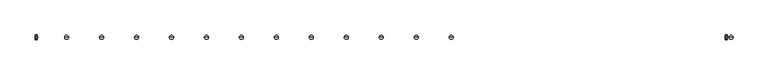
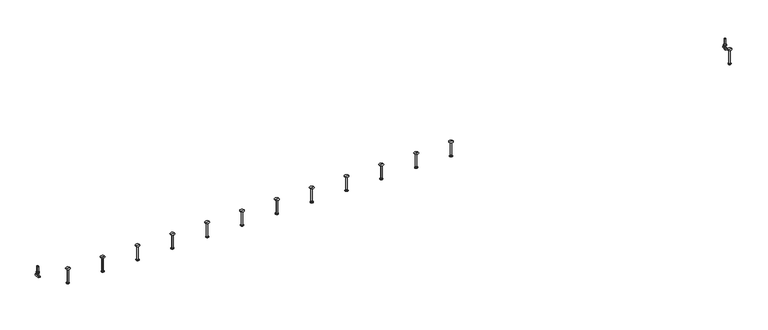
"""IFC4 building model written with IfcOpenShell, lengths in millimetres: fastener geometry, JTA-K JORDAHL® AnchorChannels : JTA-K L=6000 mm."""

from ifc_helpers import new_model, si_unit, point, frame, frame_2d, origin, place, context, project, spatial, polyline, circle_curve, trimmed, segment, composite_curve, outline, extrude, source, transform, mapped, element, save
from ifc_brep_helpers import plane_surface, cylinder_surface, revolved_surface, advanced_brep


def fastener_3a6b7516(model_context):
    return source(origin(), model_context, "Body", "SolidModel", [
        advanced_brep(
        [(3593.0, 0.0, -34.0), (3575.5, 0.0, -34.0), (3610.5, 0.0, -34.0), (3581.5, 0.0, -165.0), (3593.0, 0.0, -165.0), (3604.5, 0.0, -165.0), (3581.5, 0.0, -163.0), (3604.5, 0.0, -163.0), (3587.2, 0.0, -159.7091035), (3598.8, 0.0, -159.7091035), (3587.2, 0.0, -37.0), (3598.8, 0.0, -37.0)],
        [
            (0, 1),
            (1, 2, circle_curve(frame((3593.0, 0.0, -34.0), z_axis=(0.0, 0.0, 1.0), x_axis=(1.0, 0.0, 0.0)), 17.5)),
            (2, 0),
            (2, 1, circle_curve(frame((3593.0, 0.0, -34.0), z_axis=(0.0, 0.0, 1.0), x_axis=(1.0, 0.0, 0.0)), 17.5)),
            (3, 4),
            (4, 5),
            (5, 3, circle_curve(frame((3593.0, 0.0, -165.0), z_axis=(0.0, 0.0, -1.0), x_axis=(1.0, 0.0, 0.0)), 11.5)),
            (3, 5, circle_curve(frame((3593.0, 0.0, -165.0), z_axis=(0.0, 0.0, -1.0), x_axis=(1.0, 0.0, 0.0)), 11.5)),
            (6, 3),
            (5, 7),
            (7, 6, circle_curve(frame((3593.0, 0.0, -163.0), z_axis=(0.0, 0.0, -1.0), x_axis=(1.0, 0.0, 0.0)), 11.5)),
            (6, 7, circle_curve(frame((3593.0, 0.0, -163.0), z_axis=(0.0, 0.0, -1.0), x_axis=(1.0, 0.0, 0.0)), 11.5)),
            (8, 6),
            (7, 9),
            (9, 8, circle_curve(frame((3593.0, 0.0, -159.7091035), z_axis=(0.0, 0.0, -1.0), x_axis=(1.0, 0.0, 0.0)), 5.8)),
            (8, 9, circle_curve(frame((3593.0, 0.0, -159.7091035), z_axis=(0.0, 0.0, -1.0), x_axis=(1.0, 0.0, 0.0)), 5.8)),
            (10, 8),
            (9, 11),
            (11, 10, circle_curve(frame((3593.0, 0.0, -37.0), z_axis=(0.0, 0.0, -1.0), x_axis=(1.0, 0.0, 0.0)), 5.8)),
            (10, 11, circle_curve(frame((3593.0, 0.0, -37.0), z_axis=(0.0, 0.0, -1.0), x_axis=(1.0, 0.0, 0.0)), 5.8)),
            (1, 10),
            (11, 2),
        ],
        [
            plane_surface(frame((3593.0, 0.0, -34.0), z_axis=(0.0, 0.0, 1.0), x_axis=(1.0, 0.0, 0.0))),
            plane_surface(frame((3593.0, 0.0, -165.0), z_axis=(0.0, 0.0, -1.0), x_axis=(1.0, 0.0, 0.0))),
            cylinder_surface(frame((3593.0, 0.0, 2345.3150031), z_axis=(0.0, 0.0, 1.0), x_axis=(1.0, 0.0, 0.0)), 11.5),
            revolved_surface(polyline([(3604.5, 0.0, -163.0), (3598.8, 0.0, -159.7091035)]), (3593.0, 0.0, 2345.3150031), (0.0, 0.0, 1.0)),
            cylinder_surface(frame((3593.0, 0.0, 2345.3150031), z_axis=(0.0, 0.0, 1.0), x_axis=(1.0, 0.0, 0.0)), 5.8),
            revolved_surface(polyline([(3598.8, 0.0, -37.0), (3610.5, 0.0, -34.0)]), (3593.0, 0.0, 2345.3150031), (0.0, 0.0, 1.0)),
        ],
        [
            (0, [[1, 2, 3]]),
            (0, [[-3, 4, -1]]),
            (1, [[5, 6, 7]]),
            (1, [[-6, -5, 8]]),
            (2, [[9, -7, 10, 11]]),
            (2, [[-10, -8, -9, 12]]),
            (3, [[13, -11, 14, 15]]),
            (3, [[-14, -12, -13, 16]]),
            (4, [[17, -15, 18, 19]]),
            (4, [[-18, -16, -17, 20]]),
            (5, [[21, -19, 22, -2]]),
            (5, [[-22, -20, -21, -4]]),
        ],
    ),
        advanced_brep(
        [(3296.5, 0.0, -34.0), (3279.0, 0.0, -34.0), (3314.0, 0.0, -34.0), (3285.0, 0.0, -165.0), (3296.5, 0.0, -165.0), (3308.0, 0.0, -165.0), (3285.0, 0.0, -163.0), (3308.0, 0.0, -163.0), (3290.7, 0.0, -159.7091035), (3302.3, 0.0, -159.7091035), (3290.7, 0.0, -37.0), (3302.3, 0.0, -37.0)],
        [
            (0, 1),
            (1, 2, circle_curve(frame((3296.5, 0.0, -34.0), z_axis=(0.0, 0.0, 1.0), x_axis=(1.0, 0.0, 0.0)), 17.5)),
            (2, 0),
            (2, 1, circle_curve(frame((3296.5, 0.0, -34.0), z_axis=(0.0, 0.0, 1.0), x_axis=(1.0, 0.0, 0.0)), 17.5)),
            (3, 4),
            (4, 5),
            (5, 3, circle_curve(frame((3296.5, 0.0, -165.0), z_axis=(0.0, 0.0, -1.0), x_axis=(1.0, 0.0, 0.0)), 11.5)),
            (3, 5, circle_curve(frame((3296.5, 0.0, -165.0), z_axis=(0.0, 0.0, -1.0), x_axis=(1.0, 0.0, 0.0)), 11.5)),
            (6, 3),
            (5, 7),
            (7, 6, circle_curve(frame((3296.5, 0.0, -163.0), z_axis=(0.0, 0.0, -1.0), x_axis=(1.0, 0.0, 0.0)), 11.5)),
            (6, 7, circle_curve(frame((3296.5, 0.0, -163.0), z_axis=(0.0, 0.0, -1.0), x_axis=(1.0, 0.0, 0.0)), 11.5)),
            (8, 6),
            (7, 9),
            (9, 8, circle_curve(frame((3296.5, 0.0, -159.7091035), z_axis=(0.0, 0.0, -1.0), x_axis=(1.0, 0.0, 0.0)), 5.8)),
            (8, 9, circle_curve(frame((3296.5, 0.0, -159.7091035), z_axis=(0.0, 0.0, -1.0), x_axis=(1.0, 0.0, 0.0)), 5.8)),
            (10, 8),
            (9, 11),
            (11, 10, circle_curve(frame((3296.5, 0.0, -37.0), z_axis=(0.0, 0.0, -1.0), x_axis=(1.0, 0.0, 0.0)), 5.8)),
            (10, 11, circle_curve(frame((3296.5, 0.0, -37.0), z_axis=(0.0, 0.0, -1.0), x_axis=(1.0, 0.0, 0.0)), 5.8)),
            (1, 10),
            (11, 2),
        ],
        [
            plane_surface(frame((3296.5, 0.0, -34.0), z_axis=(0.0, 0.0, 1.0), x_axis=(1.0, 0.0, 0.0))),
            plane_surface(frame((3296.5, 0.0, -165.0), z_axis=(0.0, 0.0, -1.0), x_axis=(1.0, 0.0, 0.0))),
            cylinder_surface(frame((3296.5, 0.0, 2345.3150031), z_axis=(0.0, 0.0, 1.0), x_axis=(1.0, 0.0, 0.0)), 11.5),
            revolved_surface(polyline([(3308.0, 0.0, -163.0), (3302.3, 0.0, -159.7091035)]), (3296.5, 0.0, 2345.3150031), (0.0, 0.0, 1.0)),
            cylinder_surface(frame((3296.5, 0.0, 2345.3150031), z_axis=(0.0, 0.0, 1.0), x_axis=(1.0, 0.0, 0.0)), 5.8),
            revolved_surface(polyline([(3302.3, 0.0, -37.0), (3314.0, 0.0, -34.0)]), (3296.5, 0.0, 2345.3150031), (0.0, 0.0, 1.0)),
        ],
        [
            (0, [[1, 2, 3]]),
            (0, [[-3, 4, -1]]),
            (1, [[5, 6, 7]]),
            (1, [[-6, -5, 8]]),
            (2, [[9, -7, 10, 11]]),
            (2, [[-10, -8, -9, 12]]),
            (3, [[13, -11, 14, 15]]),
            (3, [[-14, -12, -13, 16]]),
            (4, [[17, -15, 18, 19]]),
            (4, [[-18, -16, -17, 20]]),
            (5, [[21, -19, 22, -2]]),
            (5, [[-22, -20, -21, -4]]),
        ],
    ),
        advanced_brep(
        [(3000.0, 0.0, -34.0), (2982.5, 0.0, -34.0), (3017.5, 0.0, -34.0), (2988.5, 0.0, -165.0), (3000.0, 0.0, -165.0), (3011.5, 0.0, -165.0), (2988.5, 0.0, -163.0), (3011.5, 0.0, -163.0), (2994.2, 0.0, -159.7091035), (3005.8, 0.0, -159.7091035), (2994.2, 0.0, -37.0), (3005.8, 0.0, -37.0)],
        [
            (0, 1),
            (1, 2, circle_curve(frame((3000.0, 0.0, -34.0), z_axis=(0.0, 0.0, 1.0), x_axis=(1.0, 0.0, 0.0)), 17.5)),
            (2, 0),
            (2, 1, circle_curve(frame((3000.0, 0.0, -34.0), z_axis=(0.0, 0.0, 1.0), x_axis=(1.0, 0.0, 0.0)), 17.5)),
            (3, 4),
            (4, 5),
            (5, 3, circle_curve(frame((3000.0, 0.0, -165.0), z_axis=(0.0, 0.0, -1.0), x_axis=(1.0, 0.0, 0.0)), 11.5)),
            (3, 5, circle_curve(frame((3000.0, 0.0, -165.0), z_axis=(0.0, 0.0, -1.0), x_axis=(1.0, 0.0, 0.0)), 11.5)),
            (6, 3),
            (5, 7),
            (7, 6, circle_curve(frame((3000.0, 0.0, -163.0), z_axis=(0.0, 0.0, -1.0), x_axis=(1.0, 0.0, 0.0)), 11.5)),
            (6, 7, circle_curve(frame((3000.0, 0.0, -163.0), z_axis=(0.0, 0.0, -1.0), x_axis=(1.0, 0.0, 0.0)), 11.5)),
            (8, 6),
            (7, 9),
            (9, 8, circle_curve(frame((3000.0, 0.0, -159.7091035), z_axis=(0.0, 0.0, -1.0), x_axis=(1.0, 0.0, 0.0)), 5.8)),
            (8, 9, circle_curve(frame((3000.0, 0.0, -159.7091035), z_axis=(0.0, 0.0, -1.0), x_axis=(1.0, 0.0, 0.0)), 5.8)),
            (10, 8),
            (9, 11),
            (11, 10, circle_curve(frame((3000.0, 0.0, -37.0), z_axis=(0.0, 0.0, -1.0), x_axis=(1.0, 0.0, 0.0)), 5.8)),
            (10, 11, circle_curve(frame((3000.0, 0.0, -37.0), z_axis=(0.0, 0.0, -1.0), x_axis=(1.0, 0.0, 0.0)), 5.8)),
            (1, 10),
            (11, 2),
        ],
        [
            plane_surface(frame((3000.0, 0.0, -34.0), z_axis=(0.0, 0.0, 1.0), x_axis=(1.0, 0.0, 0.0))),
            plane_surface(frame((3000.0, 0.0, -165.0), z_axis=(0.0, 0.0, -1.0), x_axis=(1.0, 0.0, 0.0))),
            cylinder_surface(frame((3000.0, 0.0, 2345.3150031), z_axis=(0.0, 0.0, 1.0), x_axis=(1.0, 0.0, 0.0)), 11.5),
            revolved_surface(polyline([(3011.5, 0.0, -163.0), (3005.8, 0.0, -159.7091035)]), (3000.0, 0.0, 2345.3150031), (0.0, 0.0, 1.0)),
            cylinder_surface(frame((3000.0, 0.0, 2345.3150031), z_axis=(0.0, 0.0, 1.0), x_axis=(1.0, 0.0, 0.0)), 5.8),
            revolved_surface(polyline([(3005.8, 0.0, -37.0), (3017.5, 0.0, -34.0)]), (3000.0, 0.0, 2345.3150031), (0.0, 0.0, 1.0)),
        ],
        [
            (0, [[1, 2, 3]]),
            (0, [[-3, 4, -1]]),
            (1, [[5, 6, 7]]),
            (1, [[-6, -5, 8]]),
            (2, [[9, -7, 10, 11]]),
            (2, [[-10, -8, -9, 12]]),
            (3, [[13, -11, 14, 15]]),
            (3, [[-14, -12, -13, 16]]),
            (4, [[17, -15, 18, 19]]),
            (4, [[-18, -16, -17, 20]]),
            (5, [[21, -19, 22, -2]]),
            (5, [[-22, -20, -21, -4]]),
        ],
    ),
        advanced_brep(
        [(2703.5, 0.0, -34.0), (2686.0, 0.0, -34.0), (2721.0, 0.0, -34.0), (2692.0, 0.0, -165.0), (2703.5, 0.0, -165.0), (2715.0, 0.0, -165.0), (2692.0, 0.0, -163.0), (2715.0, 0.0, -163.0), (2697.7, 0.0, -159.7091035), (2709.3, 0.0, -159.7091035), (2697.7, 0.0, -37.0), (2709.3, 0.0, -37.0)],
        [
            (0, 1),
            (1, 2, circle_curve(frame((2703.5, 0.0, -34.0), z_axis=(0.0, 0.0, 1.0), x_axis=(1.0, 0.0, 0.0)), 17.5)),
            (2, 0),
            (2, 1, circle_curve(frame((2703.5, 0.0, -34.0), z_axis=(0.0, 0.0, 1.0), x_axis=(1.0, 0.0, 0.0)), 17.5)),
            (3, 4),
            (4, 5),
            (5, 3, circle_curve(frame((2703.5, 0.0, -165.0), z_axis=(0.0, 0.0, -1.0), x_axis=(1.0, 0.0, 0.0)), 11.5)),
            (3, 5, circle_curve(frame((2703.5, 0.0, -165.0), z_axis=(0.0, 0.0, -1.0), x_axis=(1.0, 0.0, 0.0)), 11.5)),
            (6, 3),
            (5, 7),
            (7, 6, circle_curve(frame((2703.5, 0.0, -163.0), z_axis=(0.0, 0.0, -1.0), x_axis=(1.0, 0.0, 0.0)), 11.5)),
            (6, 7, circle_curve(frame((2703.5, 0.0, -163.0), z_axis=(0.0, 0.0, -1.0), x_axis=(1.0, 0.0, 0.0)), 11.5)),
            (8, 6),
            (7, 9),
            (9, 8, circle_curve(frame((2703.5, 0.0, -159.7091035), z_axis=(0.0, 0.0, -1.0), x_axis=(1.0, 0.0, 0.0)), 5.8)),
            (8, 9, circle_curve(frame((2703.5, 0.0, -159.7091035), z_axis=(0.0, 0.0, -1.0), x_axis=(1.0, 0.0, 0.0)), 5.8)),
            (10, 8),
            (9, 11),
            (11, 10, circle_curve(frame((2703.5, 0.0, -37.0), z_axis=(0.0, 0.0, -1.0), x_axis=(1.0, 0.0, 0.0)), 5.8)),
            (10, 11, circle_curve(frame((2703.5, 0.0, -37.0), z_axis=(0.0, 0.0, -1.0), x_axis=(1.0, 0.0, 0.0)), 5.8)),
            (1, 10),
            (11, 2),
        ],
        [
            plane_surface(frame((2703.5, 0.0, -34.0), z_axis=(0.0, 0.0, 1.0), x_axis=(1.0, 0.0, 0.0))),
            plane_surface(frame((2703.5, 0.0, -165.0), z_axis=(0.0, 0.0, -1.0), x_axis=(1.0, 0.0, 0.0))),
            cylinder_surface(frame((2703.5, 0.0, 2345.3150031), z_axis=(0.0, 0.0, 1.0), x_axis=(1.0, 0.0, 0.0)), 11.5),
            revolved_surface(polyline([(2715.0, 0.0, -163.0), (2709.3, 0.0, -159.7091035)]), (2703.5, 0.0, 2345.3150031), (0.0, 0.0, 1.0)),
            cylinder_surface(frame((2703.5, 0.0, 2345.3150031), z_axis=(0.0, 0.0, 1.0), x_axis=(1.0, 0.0, 0.0)), 5.8),
            revolved_surface(polyline([(2709.3, 0.0, -37.0), (2721.0, 0.0, -34.0)]), (2703.5, 0.0, 2345.3150031), (0.0, 0.0, 1.0)),
        ],
        [
            (0, [[1, 2, 3]]),
            (0, [[-3, 4, -1]]),
            (1, [[5, 6, 7]]),
            (1, [[-6, -5, 8]]),
            (2, [[9, -7, 10, 11]]),
            (2, [[-10, -8, -9, 12]]),
            (3, [[13, -11, 14, 15]]),
            (3, [[-14, -12, -13, 16]]),
            (4, [[17, -15, 18, 19]]),
            (4, [[-18, -16, -17, 20]]),
            (5, [[21, -19, 22, -2]]),
            (5, [[-22, -20, -21, -4]]),
        ],
    ),
        advanced_brep(
        [(2407.0, 0.0, -34.0), (2389.5, 0.0, -34.0), (2424.5, 0.0, -34.0), (2395.5, 0.0, -165.0), (2407.0, 0.0, -165.0), (2418.5, 0.0, -165.0), (2395.5, 0.0, -163.0), (2418.5, 0.0, -163.0), (2401.2, 0.0, -159.7091035), (2412.8, 0.0, -159.7091035), (2401.2, 0.0, -37.0), (2412.8, 0.0, -37.0)],
        [
            (0, 1),
            (1, 2, circle_curve(frame((2407.0, 0.0, -34.0), z_axis=(0.0, 0.0, 1.0), x_axis=(1.0, 0.0, 0.0)), 17.5)),
            (2, 0),
            (2, 1, circle_curve(frame((2407.0, 0.0, -34.0), z_axis=(0.0, 0.0, 1.0), x_axis=(1.0, 0.0, 0.0)), 17.5)),
            (3, 4),
            (4, 5),
            (5, 3, circle_curve(frame((2407.0, 0.0, -165.0), z_axis=(0.0, 0.0, -1.0), x_axis=(1.0, 0.0, 0.0)), 11.5)),
            (3, 5, circle_curve(frame((2407.0, 0.0, -165.0), z_axis=(0.0, 0.0, -1.0), x_axis=(1.0, 0.0, 0.0)), 11.5)),
            (6, 3),
            (5, 7),
            (7, 6, circle_curve(frame((2407.0, 0.0, -163.0), z_axis=(0.0, 0.0, -1.0), x_axis=(1.0, 0.0, 0.0)), 11.5)),
            (6, 7, circle_curve(frame((2407.0, 0.0, -163.0), z_axis=(0.0, 0.0, -1.0), x_axis=(1.0, 0.0, 0.0)), 11.5)),
            (8, 6),
            (7, 9),
            (9, 8, circle_curve(frame((2407.0, 0.0, -159.7091035), z_axis=(0.0, 0.0, -1.0), x_axis=(1.0, 0.0, 0.0)), 5.8)),
            (8, 9, circle_curve(frame((2407.0, 0.0, -159.7091035), z_axis=(0.0, 0.0, -1.0), x_axis=(1.0, 0.0, 0.0)), 5.8)),
            (10, 8),
            (9, 11),
            (11, 10, circle_curve(frame((2407.0, 0.0, -37.0), z_axis=(0.0, 0.0, -1.0), x_axis=(1.0, 0.0, 0.0)), 5.8)),
            (10, 11, circle_curve(frame((2407.0, 0.0, -37.0), z_axis=(0.0, 0.0, -1.0), x_axis=(1.0, 0.0, 0.0)), 5.8)),
            (1, 10),
            (11, 2),
        ],
        [
            plane_surface(frame((2407.0, 0.0, -34.0), z_axis=(0.0, 0.0, 1.0), x_axis=(1.0, 0.0, 0.0))),
            plane_surface(frame((2407.0, 0.0, -165.0), z_axis=(0.0, 0.0, -1.0), x_axis=(1.0, 0.0, 0.0))),
            cylinder_surface(frame((2407.0, 0.0, 2345.3150031), z_axis=(0.0, 0.0, 1.0), x_axis=(1.0, 0.0, 0.0)), 11.5),
            revolved_surface(polyline([(2418.5, 0.0, -163.0), (2412.8, 0.0, -159.7091035)]), (2407.0, 0.0, 2345.3150031), (0.0, 0.0, 1.0)),
            cylinder_surface(frame((2407.0, 0.0, 2345.3150031), z_axis=(0.0, 0.0, 1.0), x_axis=(1.0, 0.0, 0.0)), 5.8),
            revolved_surface(polyline([(2412.8, 0.0, -37.0), (2424.5, 0.0, -34.0)]), (2407.0, 0.0, 2345.3150031), (0.0, 0.0, 1.0)),
        ],
        [
            (0, [[1, 2, 3]]),
            (0, [[-3, 4, -1]]),
            (1, [[5, 6, 7]]),
            (1, [[-6, -5, 8]]),
            (2, [[9, -7, 10, 11]]),
            (2, [[-10, -8, -9, 12]]),
            (3, [[13, -11, 14, 15]]),
            (3, [[-14, -12, -13, 16]]),
            (4, [[17, -15, 18, 19]]),
            (4, [[-18, -16, -17, 20]]),
            (5, [[21, -19, 22, -2]]),
            (5, [[-22, -20, -21, -4]]),
        ],
    ),
        advanced_brep(
        [(2110.5, 0.0, -34.0), (2093.0, 0.0, -34.0), (2128.0, 0.0, -34.0), (2099.0, 0.0, -165.0), (2110.5, 0.0, -165.0), (2122.0, 0.0, -165.0), (2099.0, 0.0, -163.0), (2122.0, 0.0, -163.0), (2104.7, 0.0, -159.7091035), (2116.3, 0.0, -159.7091035), (2104.7, 0.0, -37.0), (2116.3, 0.0, -37.0)],
        [
            (0, 1),
            (1, 2, circle_curve(frame((2110.5, 0.0, -34.0), z_axis=(0.0, 0.0, 1.0), x_axis=(1.0, 0.0, 0.0)), 17.5)),
            (2, 0),
            (2, 1, circle_curve(frame((2110.5, 0.0, -34.0), z_axis=(0.0, 0.0, 1.0), x_axis=(1.0, 0.0, 0.0)), 17.5)),
            (3, 4),
            (4, 5),
            (5, 3, circle_curve(frame((2110.5, 0.0, -165.0), z_axis=(0.0, 0.0, -1.0), x_axis=(1.0, 0.0, 0.0)), 11.5)),
            (3, 5, circle_curve(frame((2110.5, 0.0, -165.0), z_axis=(0.0, 0.0, -1.0), x_axis=(1.0, 0.0, 0.0)), 11.5)),
            (6, 3),
            (5, 7),
            (7, 6, circle_curve(frame((2110.5, 0.0, -163.0), z_axis=(0.0, 0.0, -1.0), x_axis=(1.0, 0.0, 0.0)), 11.5)),
            (6, 7, circle_curve(frame((2110.5, 0.0, -163.0), z_axis=(0.0, 0.0, -1.0), x_axis=(1.0, 0.0, 0.0)), 11.5)),
            (8, 6),
            (7, 9),
            (9, 8, circle_curve(frame((2110.5, 0.0, -159.7091035), z_axis=(0.0, 0.0, -1.0), x_axis=(1.0, 0.0, 0.0)), 5.8)),
            (8, 9, circle_curve(frame((2110.5, 0.0, -159.7091035), z_axis=(0.0, 0.0, -1.0), x_axis=(1.0, 0.0, 0.0)), 5.8)),
            (10, 8),
            (9, 11),
            (11, 10, circle_curve(frame((2110.5, 0.0, -37.0), z_axis=(0.0, 0.0, -1.0), x_axis=(1.0, 0.0, 0.0)), 5.8)),
            (10, 11, circle_curve(frame((2110.5, 0.0, -37.0), z_axis=(0.0, 0.0, -1.0), x_axis=(1.0, 0.0, 0.0)), 5.8)),
            (1, 10),
            (11, 2),
        ],
        [
            plane_surface(frame((2110.5, 0.0, -34.0), z_axis=(0.0, 0.0, 1.0), x_axis=(1.0, 0.0, 0.0))),
            plane_surface(frame((2110.5, 0.0, -165.0), z_axis=(0.0, 0.0, -1.0), x_axis=(1.0, 0.0, 0.0))),
            cylinder_surface(frame((2110.5, 0.0, 2345.3150031), z_axis=(0.0, 0.0, 1.0), x_axis=(1.0, 0.0, 0.0)), 11.5),
            revolved_surface(polyline([(2122.0, 0.0, -163.0), (2116.3, 0.0, -159.7091035)]), (2110.5, 0.0, 2345.3150031), (0.0, 0.0, 1.0)),
            cylinder_surface(frame((2110.5, 0.0, 2345.3150031), z_axis=(0.0, 0.0, 1.0), x_axis=(1.0, 0.0, 0.0)), 5.8),
            revolved_surface(polyline([(2116.3, 0.0, -37.0), (2128.0, 0.0, -34.0)]), (2110.5, 0.0, 2345.3150031), (0.0, 0.0, 1.0)),
        ],
        [
            (0, [[1, 2, 3]]),
            (0, [[-3, 4, -1]]),
            (1, [[5, 6, 7]]),
            (1, [[-6, -5, 8]]),
            (2, [[9, -7, 10, 11]]),
            (2, [[-10, -8, -9, 12]]),
            (3, [[13, -11, 14, 15]]),
            (3, [[-14, -12, -13, 16]]),
            (4, [[17, -15, 18, 19]]),
            (4, [[-18, -16, -17, 20]]),
            (5, [[21, -19, 22, -2]]),
            (5, [[-22, -20, -21, -4]]),
        ],
    ),
        advanced_brep(
        [(1814.0, 0.0, -34.0), (1796.5, 0.0, -34.0), (1831.5, 0.0, -34.0), (1802.5, 0.0, -165.0), (1814.0, 0.0, -165.0), (1825.5, 0.0, -165.0), (1802.5, 0.0, -163.0), (1825.5, 0.0, -163.0), (1808.2, 0.0, -159.7091035), (1819.8, 0.0, -159.7091035), (1808.2, 0.0, -37.0), (1819.8, 0.0, -37.0)],
        [
            (0, 1),
            (1, 2, circle_curve(frame((1814.0, 0.0, -34.0), z_axis=(0.0, 0.0, 1.0), x_axis=(1.0, 0.0, 0.0)), 17.5)),
            (2, 0),
            (2, 1, circle_curve(frame((1814.0, 0.0, -34.0), z_axis=(0.0, 0.0, 1.0), x_axis=(1.0, 0.0, 0.0)), 17.5)),
            (3, 4),
            (4, 5),
            (5, 3, circle_curve(frame((1814.0, 0.0, -165.0), z_axis=(0.0, 0.0, -1.0), x_axis=(1.0, 0.0, 0.0)), 11.5)),
            (3, 5, circle_curve(frame((1814.0, 0.0, -165.0), z_axis=(0.0, 0.0, -1.0), x_axis=(1.0, 0.0, 0.0)), 11.5)),
            (6, 3),
            (5, 7),
            (7, 6, circle_curve(frame((1814.0, 0.0, -163.0), z_axis=(0.0, 0.0, -1.0), x_axis=(1.0, 0.0, 0.0)), 11.5)),
            (6, 7, circle_curve(frame((1814.0, 0.0, -163.0), z_axis=(0.0, 0.0, -1.0), x_axis=(1.0, 0.0, 0.0)), 11.5)),
            (8, 6),
            (7, 9),
            (9, 8, circle_curve(frame((1814.0, 0.0, -159.7091035), z_axis=(0.0, 0.0, -1.0), x_axis=(1.0, 0.0, 0.0)), 5.8)),
            (8, 9, circle_curve(frame((1814.0, 0.0, -159.7091035), z_axis=(0.0, 0.0, -1.0), x_axis=(1.0, 0.0, 0.0)), 5.8)),
            (10, 8),
            (9, 11),
            (11, 10, circle_curve(frame((1814.0, 0.0, -37.0), z_axis=(0.0, 0.0, -1.0), x_axis=(1.0, 0.0, 0.0)), 5.8)),
            (10, 11, circle_curve(frame((1814.0, 0.0, -37.0), z_axis=(0.0, 0.0, -1.0), x_axis=(1.0, 0.0, 0.0)), 5.8)),
            (1, 10),
            (11, 2),
        ],
        [
            plane_surface(frame((1814.0, 0.0, -34.0), z_axis=(0.0, 0.0, 1.0), x_axis=(1.0, 0.0, 0.0))),
            plane_surface(frame((1814.0, 0.0, -165.0), z_axis=(0.0, 0.0, -1.0), x_axis=(1.0, 0.0, 0.0))),
            cylinder_surface(frame((1814.0, 0.0, 2345.3150031), z_axis=(0.0, 0.0, 1.0), x_axis=(1.0, 0.0, 0.0)), 11.5),
            revolved_surface(polyline([(1825.5, 0.0, -163.0), (1819.8, 0.0, -159.7091035)]), (1814.0, 0.0, 2345.3150031), (0.0, 0.0, 1.0)),
            cylinder_surface(frame((1814.0, 0.0, 2345.3150031), z_axis=(0.0, 0.0, 1.0), x_axis=(1.0, 0.0, 0.0)), 5.8),
            revolved_surface(polyline([(1819.8, 0.0, -37.0), (1831.5, 0.0, -34.0)]), (1814.0, 0.0, 2345.3150031), (0.0, 0.0, 1.0)),
        ],
        [
            (0, [[1, 2, 3]]),
            (0, [[-3, 4, -1]]),
            (1, [[5, 6, 7]]),
            (1, [[-6, -5, 8]]),
            (2, [[9, -7, 10, 11]]),
            (2, [[-10, -8, -9, 12]]),
            (3, [[13, -11, 14, 15]]),
            (3, [[-14, -12, -13, 16]]),
            (4, [[17, -15, 18, 19]]),
            (4, [[-18, -16, -17, 20]]),
            (5, [[21, -19, 22, -2]]),
            (5, [[-22, -20, -21, -4]]),
        ],
    ),
        advanced_brep(
        [(1517.5, 0.0, -34.0), (1500.0, 0.0, -34.0), (1535.0, 0.0, -34.0), (1506.0, 0.0, -165.0), (1517.5, 0.0, -165.0), (1529.0, 0.0, -165.0), (1506.0, 0.0, -163.0), (1529.0, 0.0, -163.0), (1511.7, 0.0, -159.7091035), (1523.3, 0.0, -159.7091035), (1511.7, 0.0, -37.0), (1523.3, 0.0, -37.0)],
        [
            (0, 1),
            (1, 2, circle_curve(frame((1517.5, 0.0, -34.0), z_axis=(0.0, 0.0, 1.0), x_axis=(1.0, 0.0, 0.0)), 17.5)),
            (2, 0),
            (2, 1, circle_curve(frame((1517.5, 0.0, -34.0), z_axis=(0.0, 0.0, 1.0), x_axis=(1.0, 0.0, 0.0)), 17.5)),
            (3, 4),
            (4, 5),
            (5, 3, circle_curve(frame((1517.5, 0.0, -165.0), z_axis=(0.0, 0.0, -1.0), x_axis=(1.0, 0.0, 0.0)), 11.5)),
            (3, 5, circle_curve(frame((1517.5, 0.0, -165.0), z_axis=(0.0, 0.0, -1.0), x_axis=(1.0, 0.0, 0.0)), 11.5)),
            (6, 3),
            (5, 7),
            (7, 6, circle_curve(frame((1517.5, 0.0, -163.0), z_axis=(0.0, 0.0, -1.0), x_axis=(1.0, 0.0, 0.0)), 11.5)),
            (6, 7, circle_curve(frame((1517.5, 0.0, -163.0), z_axis=(0.0, 0.0, -1.0), x_axis=(1.0, 0.0, 0.0)), 11.5)),
            (8, 6),
            (7, 9),
            (9, 8, circle_curve(frame((1517.5, 0.0, -159.7091035), z_axis=(0.0, 0.0, -1.0), x_axis=(1.0, 0.0, 0.0)), 5.8)),
            (8, 9, circle_curve(frame((1517.5, 0.0, -159.7091035), z_axis=(0.0, 0.0, -1.0), x_axis=(1.0, 0.0, 0.0)), 5.8)),
            (10, 8),
            (9, 11),
            (11, 10, circle_curve(frame((1517.5, 0.0, -37.0), z_axis=(0.0, 0.0, -1.0), x_axis=(1.0, 0.0, 0.0)), 5.8)),
            (10, 11, circle_curve(frame((1517.5, 0.0, -37.0), z_axis=(0.0, 0.0, -1.0), x_axis=(1.0, 0.0, 0.0)), 5.8)),
            (1, 10),
            (11, 2),
        ],
        [
            plane_surface(frame((1517.5, 0.0, -34.0), z_axis=(0.0, 0.0, 1.0), x_axis=(1.0, 0.0, 0.0))),
            plane_surface(frame((1517.5, 0.0, -165.0), z_axis=(0.0, 0.0, -1.0), x_axis=(1.0, 0.0, 0.0))),
            cylinder_surface(frame((1517.5, 0.0, 2345.3150031), z_axis=(0.0, 0.0, 1.0), x_axis=(1.0, 0.0, 0.0)), 11.5),
            revolved_surface(polyline([(1529.0, 0.0, -163.0), (1523.3, 0.0, -159.7091035)]), (1517.5, 0.0, 2345.3150031), (0.0, 0.0, 1.0)),
            cylinder_surface(frame((1517.5, 0.0, 2345.3150031), z_axis=(0.0, 0.0, 1.0), x_axis=(1.0, 0.0, 0.0)), 5.8),
            revolved_surface(polyline([(1523.3, 0.0, -37.0), (1535.0, 0.0, -34.0)]), (1517.5, 0.0, 2345.3150031), (0.0, 0.0, 1.0)),
        ],
        [
            (0, [[1, 2, 3]]),
            (0, [[-3, 4, -1]]),
            (1, [[5, 6, 7]]),
            (1, [[-6, -5, 8]]),
            (2, [[9, -7, 10, 11]]),
            (2, [[-10, -8, -9, 12]]),
            (3, [[13, -11, 14, 15]]),
            (3, [[-14, -12, -13, 16]]),
            (4, [[17, -15, 18, 19]]),
            (4, [[-18, -16, -17, 20]]),
            (5, [[21, -19, 22, -2]]),
            (5, [[-22, -20, -21, -4]]),
        ],
    ),
        advanced_brep(
        [(1221.0, 0.0, -34.0), (1203.5, 0.0, -34.0), (1238.5, 0.0, -34.0), (1209.5, 0.0, -165.0), (1221.0, 0.0, -165.0), (1232.5, 0.0, -165.0), (1209.5, 0.0, -163.0), (1232.5, 0.0, -163.0), (1215.2, 0.0, -159.7091035), (1226.8, 0.0, -159.7091035), (1215.2, 0.0, -37.0), (1226.8, 0.0, -37.0)],
        [
            (0, 1),
            (1, 2, circle_curve(frame((1221.0, 0.0, -34.0), z_axis=(0.0, 0.0, 1.0), x_axis=(1.0, 0.0, 0.0)), 17.5)),
            (2, 0),
            (2, 1, circle_curve(frame((1221.0, 0.0, -34.0), z_axis=(0.0, 0.0, 1.0), x_axis=(1.0, 0.0, 0.0)), 17.5)),
            (3, 4),
            (4, 5),
            (5, 3, circle_curve(frame((1221.0, 0.0, -165.0), z_axis=(0.0, 0.0, -1.0), x_axis=(1.0, 0.0, 0.0)), 11.5)),
            (3, 5, circle_curve(frame((1221.0, 0.0, -165.0), z_axis=(0.0, 0.0, -1.0), x_axis=(1.0, 0.0, 0.0)), 11.5)),
            (6, 3),
            (5, 7),
            (7, 6, circle_curve(frame((1221.0, 0.0, -163.0), z_axis=(0.0, 0.0, -1.0), x_axis=(1.0, 0.0, 0.0)), 11.5)),
            (6, 7, circle_curve(frame((1221.0, 0.0, -163.0), z_axis=(0.0, 0.0, -1.0), x_axis=(1.0, 0.0, 0.0)), 11.5)),
            (8, 6),
            (7, 9),
            (9, 8, circle_curve(frame((1221.0, 0.0, -159.7091035), z_axis=(0.0, 0.0, -1.0), x_axis=(1.0, 0.0, 0.0)), 5.8)),
            (8, 9, circle_curve(frame((1221.0, 0.0, -159.7091035), z_axis=(0.0, 0.0, -1.0), x_axis=(1.0, 0.0, 0.0)), 5.8)),
            (10, 8),
            (9, 11),
            (11, 10, circle_curve(frame((1221.0, 0.0, -37.0), z_axis=(0.0, 0.0, -1.0), x_axis=(1.0, 0.0, 0.0)), 5.8)),
            (10, 11, circle_curve(frame((1221.0, 0.0, -37.0), z_axis=(0.0, 0.0, -1.0), x_axis=(1.0, 0.0, 0.0)), 5.8)),
            (1, 10),
            (11, 2),
        ],
        [
            plane_surface(frame((1221.0, 0.0, -34.0), z_axis=(0.0, 0.0, 1.0), x_axis=(1.0, 0.0, 0.0))),
            plane_surface(frame((1221.0, 0.0, -165.0), z_axis=(0.0, 0.0, -1.0), x_axis=(1.0, 0.0, 0.0))),
            cylinder_surface(frame((1221.0, 0.0, 2345.3150031), z_axis=(0.0, 0.0, 1.0), x_axis=(1.0, 0.0, 0.0)), 11.5),
            revolved_surface(polyline([(1232.5, 0.0, -163.0), (1226.8, 0.0, -159.7091035)]), (1221.0, 0.0, 2345.3150031), (0.0, 0.0, 1.0)),
            cylinder_surface(frame((1221.0, 0.0, 2345.3150031), z_axis=(0.0, 0.0, 1.0), x_axis=(1.0, 0.0, 0.0)), 5.8),
            revolved_surface(polyline([(1226.8, 0.0, -37.0), (1238.5, 0.0, -34.0)]), (1221.0, 0.0, 2345.3150031), (0.0, 0.0, 1.0)),
        ],
        [
            (0, [[1, 2, 3]]),
            (0, [[-3, 4, -1]]),
            (1, [[5, 6, 7]]),
            (1, [[-6, -5, 8]]),
            (2, [[9, -7, 10, 11]]),
            (2, [[-10, -8, -9, 12]]),
            (3, [[13, -11, 14, 15]]),
            (3, [[-14, -12, -13, 16]]),
            (4, [[17, -15, 18, 19]]),
            (4, [[-18, -16, -17, 20]]),
            (5, [[21, -19, 22, -2]]),
            (5, [[-22, -20, -21, -4]]),
        ],
    ),
        advanced_brep(
        [(924.5, 0.0, -34.0), (907.0, 0.0, -34.0), (942.0, 0.0, -34.0), (913.0, 0.0, -165.0), (924.5, 0.0, -165.0), (936.0, 0.0, -165.0), (913.0, 0.0, -163.0), (936.0, 0.0, -163.0), (918.7, 0.0, -159.7091035), (930.3, 0.0, -159.7091035), (918.7, 0.0, -37.0), (930.3, 0.0, -37.0)],
        [
            (0, 1),
            (1, 2, circle_curve(frame((924.5, 0.0, -34.0), z_axis=(0.0, 0.0, 1.0), x_axis=(1.0, 0.0, 0.0)), 17.5)),
            (2, 0),
            (2, 1, circle_curve(frame((924.5, 0.0, -34.0), z_axis=(0.0, 0.0, 1.0), x_axis=(1.0, 0.0, 0.0)), 17.5)),
            (3, 4),
            (4, 5),
            (5, 3, circle_curve(frame((924.5, 0.0, -165.0), z_axis=(0.0, 0.0, -1.0), x_axis=(1.0, 0.0, 0.0)), 11.5)),
            (3, 5, circle_curve(frame((924.5, 0.0, -165.0), z_axis=(0.0, 0.0, -1.0), x_axis=(1.0, 0.0, 0.0)), 11.5)),
            (6, 3),
            (5, 7),
            (7, 6, circle_curve(frame((924.5, 0.0, -163.0), z_axis=(0.0, 0.0, -1.0), x_axis=(1.0, 0.0, 0.0)), 11.5)),
            (6, 7, circle_curve(frame((924.5, 0.0, -163.0), z_axis=(0.0, 0.0, -1.0), x_axis=(1.0, 0.0, 0.0)), 11.5)),
            (8, 6),
            (7, 9),
            (9, 8, circle_curve(frame((924.5, 0.0, -159.7091035), z_axis=(0.0, 0.0, -1.0), x_axis=(1.0, 0.0, 0.0)), 5.8)),
            (8, 9, circle_curve(frame((924.5, 0.0, -159.7091035), z_axis=(0.0, 0.0, -1.0), x_axis=(1.0, 0.0, 0.0)), 5.8)),
            (10, 8),
            (9, 11),
            (11, 10, circle_curve(frame((924.5, 0.0, -37.0), z_axis=(0.0, 0.0, -1.0), x_axis=(1.0, 0.0, 0.0)), 5.8)),
            (10, 11, circle_curve(frame((924.5, 0.0, -37.0), z_axis=(0.0, 0.0, -1.0), x_axis=(1.0, 0.0, 0.0)), 5.8)),
            (1, 10),
            (11, 2),
        ],
        [
            plane_surface(frame((924.5, 0.0, -34.0), z_axis=(0.0, 0.0, 1.0), x_axis=(1.0, 0.0, 0.0))),
            plane_surface(frame((924.5, 0.0, -165.0), z_axis=(0.0, 0.0, -1.0), x_axis=(1.0, 0.0, 0.0))),
            cylinder_surface(frame((924.5, 0.0, 2345.3150031), z_axis=(0.0, 0.0, 1.0), x_axis=(1.0, 0.0, 0.0)), 11.5),
            revolved_surface(polyline([(936.0, 0.0, -163.0), (930.3, 0.0, -159.7091035)]), (924.5, 0.0, 2345.3150031), (0.0, 0.0, 1.0)),
            cylinder_surface(frame((924.5, 0.0, 2345.3150031), z_axis=(0.0, 0.0, 1.0), x_axis=(1.0, 0.0, 0.0)), 5.8),
            revolved_surface(polyline([(930.3, 0.0, -37.0), (942.0, 0.0, -34.0)]), (924.5, 0.0, 2345.3150031), (0.0, 0.0, 1.0)),
        ],
        [
            (0, [[1, 2, 3]]),
            (0, [[-3, 4, -1]]),
            (1, [[5, 6, 7]]),
            (1, [[-6, -5, 8]]),
            (2, [[9, -7, 10, 11]]),
            (2, [[-10, -8, -9, 12]]),
            (3, [[13, -11, 14, 15]]),
            (3, [[-14, -12, -13, 16]]),
            (4, [[17, -15, 18, 19]]),
            (4, [[-18, -16, -17, 20]]),
            (5, [[21, -19, 22, -2]]),
            (5, [[-22, -20, -21, -4]]),
        ],
    ),
        advanced_brep(
        [(628.0, 0.0, -34.0), (610.5, 0.0, -34.0), (645.5, 0.0, -34.0), (616.5, 0.0, -165.0), (628.0, 0.0, -165.0), (639.5, 0.0, -165.0), (616.5, 0.0, -163.0), (639.5, 0.0, -163.0), (622.2, 0.0, -159.7091035), (633.8, 0.0, -159.7091035), (622.2, 0.0, -37.0), (633.8, 0.0, -37.0)],
        [
            (0, 1),
            (1, 2, circle_curve(frame((628.0, 0.0, -34.0), z_axis=(0.0, 0.0, 1.0), x_axis=(1.0, 0.0, 0.0)), 17.5)),
            (2, 0),
            (2, 1, circle_curve(frame((628.0, 0.0, -34.0), z_axis=(0.0, 0.0, 1.0), x_axis=(1.0, 0.0, 0.0)), 17.5)),
            (3, 4),
            (4, 5),
            (5, 3, circle_curve(frame((628.0, 0.0, -165.0), z_axis=(0.0, 0.0, -1.0), x_axis=(1.0, 0.0, 0.0)), 11.5)),
            (3, 5, circle_curve(frame((628.0, 0.0, -165.0), z_axis=(0.0, 0.0, -1.0), x_axis=(1.0, 0.0, 0.0)), 11.5)),
            (6, 3),
            (5, 7),
            (7, 6, circle_curve(frame((628.0, 0.0, -163.0), z_axis=(0.0, 0.0, -1.0), x_axis=(1.0, 0.0, 0.0)), 11.5)),
            (6, 7, circle_curve(frame((628.0, 0.0, -163.0), z_axis=(0.0, 0.0, -1.0), x_axis=(1.0, 0.0, 0.0)), 11.5)),
            (8, 6),
            (7, 9),
            (9, 8, circle_curve(frame((628.0, 0.0, -159.7091035), z_axis=(0.0, 0.0, -1.0), x_axis=(1.0, 0.0, 0.0)), 5.8)),
            (8, 9, circle_curve(frame((628.0, 0.0, -159.7091035), z_axis=(0.0, 0.0, -1.0), x_axis=(1.0, 0.0, 0.0)), 5.8)),
            (10, 8),
            (9, 11),
            (11, 10, circle_curve(frame((628.0, 0.0, -37.0), z_axis=(0.0, 0.0, -1.0), x_axis=(1.0, 0.0, 0.0)), 5.8)),
            (10, 11, circle_curve(frame((628.0, 0.0, -37.0), z_axis=(0.0, 0.0, -1.0), x_axis=(1.0, 0.0, 0.0)), 5.8)),
            (1, 10),
            (11, 2),
        ],
        [
            plane_surface(frame((628.0, 0.0, -34.0), z_axis=(0.0, 0.0, 1.0), x_axis=(1.0, 0.0, 0.0))),
            plane_surface(frame((628.0, 0.0, -165.0), z_axis=(0.0, 0.0, -1.0), x_axis=(1.0, 0.0, 0.0))),
            cylinder_surface(frame((628.0, 0.0, 2345.3150031), z_axis=(0.0, 0.0, 1.0), x_axis=(1.0, 0.0, 0.0)), 11.5),
            revolved_surface(polyline([(639.5, 0.0, -163.0), (633.8, 0.0, -159.7091035)]), (628.0, 0.0, 2345.3150031), (0.0, 0.0, 1.0)),
            cylinder_surface(frame((628.0, 0.0, 2345.3150031), z_axis=(0.0, 0.0, 1.0), x_axis=(1.0, 0.0, 0.0)), 5.8),
            revolved_surface(polyline([(633.8, 0.0, -37.0), (645.5, 0.0, -34.0)]), (628.0, 0.0, 2345.3150031), (0.0, 0.0, 1.0)),
        ],
        [
            (0, [[1, 2, 3]]),
            (0, [[-3, 4, -1]]),
            (1, [[5, 6, 7]]),
            (1, [[-6, -5, 8]]),
            (2, [[9, -7, 10, 11]]),
            (2, [[-10, -8, -9, 12]]),
            (3, [[13, -11, 14, 15]]),
            (3, [[-14, -12, -13, 16]]),
            (4, [[17, -15, 18, 19]]),
            (4, [[-18, -16, -17, 20]]),
            (5, [[21, -19, 22, -2]]),
            (5, [[-22, -20, -21, -4]]),
        ],
    ),
        advanced_brep(
        [(331.5, 0.0, -34.0), (314.0, 0.0, -34.0), (349.0, 0.0, -34.0), (320.0, 0.0, -165.0), (331.5, 0.0, -165.0), (343.0, 0.0, -165.0), (320.0, 0.0, -163.0), (343.0, 0.0, -163.0), (325.7, 0.0, -159.7091035), (337.3, 0.0, -159.7091035), (325.7, 0.0, -37.0), (337.3, 0.0, -37.0)],
        [
            (0, 1),
            (1, 2, circle_curve(frame((331.5, 0.0, -34.0), z_axis=(0.0, 0.0, 1.0), x_axis=(1.0, 0.0, 0.0)), 17.5)),
            (2, 0),
            (2, 1, circle_curve(frame((331.5, 0.0, -34.0), z_axis=(0.0, 0.0, 1.0), x_axis=(1.0, 0.0, 0.0)), 17.5)),
            (3, 4),
            (4, 5),
            (5, 3, circle_curve(frame((331.5, 0.0, -165.0), z_axis=(0.0, 0.0, -1.0), x_axis=(1.0, 0.0, 0.0)), 11.5)),
            (3, 5, circle_curve(frame((331.5, 0.0, -165.0), z_axis=(0.0, 0.0, -1.0), x_axis=(1.0, 0.0, 0.0)), 11.5)),
            (6, 3),
            (5, 7),
            (7, 6, circle_curve(frame((331.5, 0.0, -163.0), z_axis=(0.0, 0.0, -1.0), x_axis=(1.0, 0.0, 0.0)), 11.5)),
            (6, 7, circle_curve(frame((331.5, 0.0, -163.0), z_axis=(0.0, 0.0, -1.0), x_axis=(1.0, 0.0, 0.0)), 11.5)),
            (8, 6),
            (7, 9),
            (9, 8, circle_curve(frame((331.5, 0.0, -159.7091035), z_axis=(0.0, 0.0, -1.0), x_axis=(1.0, 0.0, 0.0)), 5.8)),
            (8, 9, circle_curve(frame((331.5, 0.0, -159.7091035), z_axis=(0.0, 0.0, -1.0), x_axis=(1.0, 0.0, 0.0)), 5.8)),
            (10, 8),
            (9, 11),
            (11, 10, circle_curve(frame((331.5, 0.0, -37.0), z_axis=(0.0, 0.0, -1.0), x_axis=(1.0, 0.0, 0.0)), 5.8)),
            (10, 11, circle_curve(frame((331.5, 0.0, -37.0), z_axis=(0.0, 0.0, -1.0), x_axis=(1.0, 0.0, 0.0)), 5.8)),
            (1, 10),
            (11, 2),
        ],
        [
            plane_surface(frame((331.5, 0.0, -34.0), z_axis=(0.0, 0.0, 1.0), x_axis=(1.0, 0.0, 0.0))),
            plane_surface(frame((331.5, 0.0, -165.0), z_axis=(0.0, 0.0, -1.0), x_axis=(1.0, 0.0, 0.0))),
            cylinder_surface(frame((331.5, 0.0, 2345.3150031), z_axis=(0.0, 0.0, 1.0), x_axis=(1.0, 0.0, 0.0)), 11.5),
            revolved_surface(polyline([(343.0, 0.0, -163.0), (337.3, 0.0, -159.7091035)]), (331.5, 0.0, 2345.3150031), (0.0, 0.0, 1.0)),
            cylinder_surface(frame((331.5, 0.0, 2345.3150031), z_axis=(0.0, 0.0, 1.0), x_axis=(1.0, 0.0, 0.0)), 5.8),
            revolved_surface(polyline([(337.3, 0.0, -37.0), (349.0, 0.0, -34.0)]), (331.5, 0.0, 2345.3150031), (0.0, 0.0, 1.0)),
        ],
        [
            (0, [[1, 2, 3]]),
            (0, [[-3, 4, -1]]),
            (1, [[5, 6, 7]]),
            (1, [[-6, -5, 8]]),
            (2, [[9, -7, 10, 11]]),
            (2, [[-10, -8, -9, 12]]),
            (3, [[13, -11, 14, 15]]),
            (3, [[-14, -12, -13, 16]]),
            (4, [[17, -15, 18, 19]]),
            (4, [[-18, -16, -17, 20]]),
            (5, [[21, -19, 22, -2]]),
            (5, [[-22, -20, -21, -4]]),
        ],
    ),
        extrude(outline(polyline([(5925.0, -10.3923048), (5916.0, -5.1961524), (5916.0, 5.1961524), (5925.0, 10.3923048), (5934.0, 5.1961524), (5934.0, -5.1961524), (5925.0, -10.3923048)]), holes=[composite_curve([segment(trimmed(circle_curve(frame_2d((5925.0, 0.0)), 6.0), [point((5919.0, 0.0))], [point((5931.0, 0.0))], True, "CARTESIAN"), True, "CONTINUOUS"), segment(trimmed(circle_curve(frame_2d((5925.0, 0.0)), 6.0), [point((5931.0, 0.0))], [point((5919.0, 0.0))], True, "CARTESIAN"), True, "CONTINUOUS")], self_intersect=False)]), frame((0.0, 0.0, 17.5), z_axis=(0.0, 0.0, 1.0), x_axis=(1.0, 0.0, 0.0)), (0.0, 0.0, 1.0), 10.8),
        extrude(outline(composite_curve([segment(trimmed(circle_curve(frame_2d((5925.0, 0.0)), 12.0), [point((5913.0, 0.0))], [point((5937.0, 0.0))], False, "CARTESIAN"), True, "CONTINUOUS"), segment(trimmed(circle_curve(frame_2d((5925.0, 0.0)), 12.0), [point((5937.0, 0.0))], [point((5913.0, 0.0))], False, "CARTESIAN"), True, "CONTINUOUS")], self_intersect=False), holes=[composite_curve([segment(trimmed(circle_curve(frame_2d((5925.0, 0.0)), 6.5), [point((5918.5, 0.0))], [point((5931.5, 0.0))], True, "CARTESIAN"), True, "CONTINUOUS"), segment(trimmed(circle_curve(frame_2d((5925.0, 0.0)), 6.5), [point((5931.5, 0.0))], [point((5918.5, 0.0))], True, "CARTESIAN"), True, "CONTINUOUS")], self_intersect=False)]), frame((0.0, 0.0, 15.0), z_axis=(0.0, 0.0, 1.0), x_axis=(1.0, 0.0, 0.0)), (0.0, 0.0, 1.0), 2.5),
        extrude(outline(polyline([(75.0, -10.3923048), (66.0, -5.1961524), (66.0, 5.1961524), (75.0, 10.3923048), (84.0, 5.1961524), (84.0, -5.1961524), (75.0, -10.3923048)]), holes=[composite_curve([segment(trimmed(circle_curve(frame_2d((75.0, 0.0)), 6.0), [point((69.0, 0.0))], [point((81.0, 0.0))], True, "CARTESIAN"), True, "CONTINUOUS"), segment(trimmed(circle_curve(frame_2d((75.0, 0.0)), 6.0), [point((81.0, 0.0))], [point((69.0, 0.0))], True, "CARTESIAN"), True, "CONTINUOUS")], self_intersect=False)]), frame((0.0, 0.0, 17.5), z_axis=(0.0, 0.0, 1.0), x_axis=(1.0, 0.0, 0.0)), (0.0, 0.0, 1.0), 10.8),
        extrude(outline(composite_curve([segment(trimmed(circle_curve(frame_2d((75.0, 0.0)), 12.0), [point((63.0, 0.0))], [point((87.0, 0.0))], False, "CARTESIAN"), True, "CONTINUOUS"), segment(trimmed(circle_curve(frame_2d((75.0, 0.0)), 12.0), [point((87.0, 0.0))], [point((63.0, 0.0))], False, "CARTESIAN"), True, "CONTINUOUS")], self_intersect=False), holes=[composite_curve([segment(trimmed(circle_curve(frame_2d((75.0, 0.0)), 6.5), [point((68.5, 0.0))], [point((81.5, 0.0))], True, "CARTESIAN"), True, "CONTINUOUS"), segment(trimmed(circle_curve(frame_2d((75.0, 0.0)), 6.5), [point((81.5, 0.0))], [point((68.5, 0.0))], True, "CARTESIAN"), True, "CONTINUOUS")], self_intersect=False)]), frame((0.0, 0.0, 15.0), z_axis=(0.0, 0.0, 1.0), x_axis=(1.0, 0.0, 0.0)), (0.0, 0.0, 1.0), 2.5),
        advanced_brep(
        [(5933.5, -20.7, -4.5), (5933.5, -20.7, -14.5), (5933.5, 20.7, -14.5), (5933.5, 20.7, -4.5), (5916.5, -20.7, -4.5), (5916.5, 20.7, -4.5), (5916.5, 20.7, -14.5), (5916.5, -20.7, -14.5), (5931.0, 0.0, -4.5), (5919.0, 0.0, -4.5), (5919.0, 0.0, 75.5), (5931.0, 0.0, 75.5)],
        [
            (0, 1),
            (1, 2),
            (2, 3),
            (3, 0),
            (4, 5),
            (5, 6),
            (6, 7),
            (7, 4),
            (3, 5),
            (4, 0),
            (8, 9, circle_curve(frame((5925.0, 0.0, -4.5), z_axis=(0.0, 0.0, -1.0), x_axis=(1.0, 0.0, 0.0)), 6.0)),
            (9, 8, circle_curve(frame((5925.0, 0.0, -4.5), z_axis=(0.0, 0.0, -1.0), x_axis=(1.0, 0.0, 0.0)), 6.0)),
            (2, 6),
            (1, 7),
            (10, 11, circle_curve(frame((5925.0, 0.0, 75.5), z_axis=(0.0, 0.0, 1.0), x_axis=(1.0, 0.0, 0.0)), 6.0)),
            (11, 10, circle_curve(frame((5925.0, 0.0, 75.5), z_axis=(0.0, 0.0, 1.0), x_axis=(1.0, 0.0, 0.0)), 6.0)),
            (11, 8),
            (9, 10),
        ],
        [
            plane_surface(frame((5933.5, 20.7, -4.5), z_axis=(1.0, 0.0, 0.0), x_axis=(0.0, 1.0, 0.0))),
            plane_surface(frame((5916.5, 20.7, -4.5), z_axis=(-1.0, 0.0, 0.0), x_axis=(0.0, -1.0, 0.0))),
            plane_surface(frame((5933.5, -20.7, -4.5), z_axis=(0.0, 0.0, 1.0), x_axis=(-1.0, 0.0, 0.0))),
            plane_surface(frame((5933.5, 20.7, -4.5), z_axis=(0.0, 1.0, 0.0), x_axis=(-1.0, 0.0, 0.0))),
            plane_surface(frame((5933.5, 20.7, -14.5), z_axis=(0.0, 0.0, -1.0), x_axis=(-1.0, 0.0, 0.0))),
            plane_surface(frame((5933.5, -20.7, -14.5), z_axis=(0.0, -1.0, 0.0), x_axis=(-1.0, 0.0, 0.0))),
            plane_surface(frame((5931.0, 0.0, 75.5), z_axis=(0.0, 0.0, 1.0), x_axis=(0.0, -1.0, 0.0))),
            cylinder_surface(frame((5925.0, 0.0, -4.5), z_axis=(0.0, 0.0, 1.0), x_axis=(1.0, 0.0, 0.0)), 6.0),
        ],
        [
            (0, [[1, 2, 3, 4]]),
            (1, [[5, 6, 7, 8]]),
            (2, [[9, -5, 10, -4], [11, 12]]),
            (3, [[13, -6, -9, -3]]),
            (4, [[14, -7, -13, -2]]),
            (5, [[-10, -8, -14, -1]]),
            (6, [[15, 16]]),
            (7, [[17, -12, 18, -16]]),
            (7, [[-18, -11, -17, -15]]),
        ],
    ),
        advanced_brep(
        [(83.5, -20.7, -4.5), (83.5, -20.7, -14.5), (83.5, 20.7, -14.5), (83.5, 20.7, -4.5), (66.5, -20.7, -4.5), (66.5, 20.7, -4.5), (66.5, 20.7, -14.5), (66.5, -20.7, -14.5), (81.0, 0.0, -4.5), (69.0, 0.0, -4.5), (69.0, 0.0, 75.5), (81.0, 0.0, 75.5)],
        [
            (0, 1),
            (1, 2),
            (2, 3),
            (3, 0),
            (4, 5),
            (5, 6),
            (6, 7),
            (7, 4),
            (3, 5),
            (4, 0),
            (8, 9, circle_curve(frame((75.0, 0.0, -4.5), z_axis=(0.0, 0.0, -1.0), x_axis=(1.0, 0.0, 0.0)), 6.0)),
            (9, 8, circle_curve(frame((75.0, 0.0, -4.5), z_axis=(0.0, 0.0, -1.0), x_axis=(1.0, 0.0, 0.0)), 6.0)),
            (2, 6),
            (1, 7),
            (10, 11, circle_curve(frame((75.0, 0.0, 75.5), z_axis=(0.0, 0.0, 1.0), x_axis=(1.0, 0.0, 0.0)), 6.0)),
            (11, 10, circle_curve(frame((75.0, 0.0, 75.5), z_axis=(0.0, 0.0, 1.0), x_axis=(1.0, 0.0, 0.0)), 6.0)),
            (11, 8),
            (9, 10),
        ],
        [
            plane_surface(frame((83.5, 20.7, -4.5), z_axis=(1.0, 0.0, 0.0), x_axis=(0.0, 1.0, 0.0))),
            plane_surface(frame((66.5, 20.7, -4.5), z_axis=(-1.0, 0.0, 0.0), x_axis=(0.0, -1.0, 0.0))),
            plane_surface(frame((83.5, -20.7, -4.5), z_axis=(0.0, 0.0, 1.0), x_axis=(-1.0, 0.0, 0.0))),
            plane_surface(frame((83.5, 20.7, -4.5), z_axis=(0.0, 1.0, 0.0), x_axis=(-1.0, 0.0, 0.0))),
            plane_surface(frame((83.5, 20.7, -14.5), z_axis=(0.0, 0.0, -1.0), x_axis=(-1.0, 0.0, 0.0))),
            plane_surface(frame((83.5, -20.7, -14.5), z_axis=(0.0, -1.0, 0.0), x_axis=(-1.0, 0.0, 0.0))),
            plane_surface(frame((81.0, 0.0, 75.5), z_axis=(0.0, 0.0, 1.0), x_axis=(0.0, -1.0, 0.0))),
            cylinder_surface(frame((75.0, 0.0, -4.5), z_axis=(0.0, 0.0, 1.0), x_axis=(1.0, 0.0, 0.0)), 6.0),
        ],
        [
            (0, [[1, 2, 3, 4]]),
            (1, [[5, 6, 7, 8]]),
            (2, [[9, -5, 10, -4], [11, 12]]),
            (3, [[13, -6, -9, -3]]),
            (4, [[14, -7, -13, -2]]),
            (5, [[-10, -8, -14, -1]]),
            (6, [[15, 16]]),
            (7, [[17, -12, 18, -16]]),
            (7, [[-18, -11, -17, -15]]),
        ],
    ),
        advanced_brep(
        [(5965.0, 0.0, -34.0), (5947.5, 0.0, -34.0), (5982.5, 0.0, -34.0), (5953.5, 0.0, -165.0), (5965.0, 0.0, -165.0), (5976.5, 0.0, -165.0), (5953.5, 0.0, -163.0), (5976.5, 0.0, -163.0), (5959.2, 0.0, -159.7091035), (5970.8, 0.0, -159.7091035), (5959.2, 0.0, -37.0), (5970.8, 0.0, -37.0)],
        [
            (0, 1),
            (1, 2, circle_curve(frame((5965.0, 0.0, -34.0), z_axis=(0.0, 0.0, 1.0), x_axis=(1.0, 0.0, 0.0)), 17.5)),
            (2, 0),
            (2, 1, circle_curve(frame((5965.0, 0.0, -34.0), z_axis=(0.0, 0.0, 1.0), x_axis=(1.0, 0.0, 0.0)), 17.5)),
            (3, 4),
            (4, 5),
            (5, 3, circle_curve(frame((5965.0, 0.0, -165.0), z_axis=(0.0, 0.0, -1.0), x_axis=(1.0, 0.0, 0.0)), 11.5)),
            (3, 5, circle_curve(frame((5965.0, 0.0, -165.0), z_axis=(0.0, 0.0, -1.0), x_axis=(1.0, 0.0, 0.0)), 11.5)),
            (6, 3),
            (5, 7),
            (7, 6, circle_curve(frame((5965.0, 0.0, -163.0), z_axis=(0.0, 0.0, -1.0), x_axis=(1.0, 0.0, 0.0)), 11.5)),
            (6, 7, circle_curve(frame((5965.0, 0.0, -163.0), z_axis=(0.0, 0.0, -1.0), x_axis=(1.0, 0.0, 0.0)), 11.5)),
            (8, 6),
            (7, 9),
            (9, 8, circle_curve(frame((5965.0, 0.0, -159.7091035), z_axis=(0.0, 0.0, -1.0), x_axis=(1.0, 0.0, 0.0)), 5.8)),
            (8, 9, circle_curve(frame((5965.0, 0.0, -159.7091035), z_axis=(0.0, 0.0, -1.0), x_axis=(1.0, 0.0, 0.0)), 5.8)),
            (10, 8),
            (9, 11),
            (11, 10, circle_curve(frame((5965.0, 0.0, -37.0), z_axis=(0.0, 0.0, -1.0), x_axis=(1.0, 0.0, 0.0)), 5.8)),
            (10, 11, circle_curve(frame((5965.0, 0.0, -37.0), z_axis=(0.0, 0.0, -1.0), x_axis=(1.0, 0.0, 0.0)), 5.8)),
            (1, 10),
            (11, 2),
        ],
        [
            plane_surface(frame((5965.0, 0.0, -34.0), z_axis=(0.0, 0.0, 1.0), x_axis=(1.0, 0.0, 0.0))),
            plane_surface(frame((5965.0, 0.0, -165.0), z_axis=(0.0, 0.0, -1.0), x_axis=(1.0, 0.0, 0.0))),
            cylinder_surface(frame((5965.0, 0.0, 2345.3150031), z_axis=(0.0, 0.0, 1.0), x_axis=(1.0, 0.0, 0.0)), 11.5),
            revolved_surface(polyline([(5976.5, 0.0, -163.0), (5970.8, 0.0, -159.7091035)]), (5965.0, 0.0, 2345.3150031), (0.0, 0.0, 1.0)),
            cylinder_surface(frame((5965.0, 0.0, 2345.3150031), z_axis=(0.0, 0.0, 1.0), x_axis=(1.0, 0.0, 0.0)), 5.8),
            revolved_surface(polyline([(5970.8, 0.0, -37.0), (5982.5, 0.0, -34.0)]), (5965.0, 0.0, 2345.3150031), (0.0, 0.0, 1.0)),
        ],
        [
            (0, [[1, 2, 3]]),
            (0, [[-3, 4, -1]]),
            (1, [[5, 6, 7]]),
            (1, [[-6, -5, 8]]),
            (2, [[9, -7, 10, 11]]),
            (2, [[-10, -8, -9, 12]]),
            (3, [[13, -11, 14, 15]]),
            (3, [[-14, -12, -13, 16]]),
            (4, [[17, -15, 18, 19]]),
            (4, [[-18, -16, -17, 20]]),
            (5, [[21, -19, 22, -2]]),
            (5, [[-22, -20, -21, -4]]),
        ],
    ),
    ])


if __name__ == "__main__":
    model = new_model("IFC4")
    model_context = context("Model", 3, world=origin())
    ifc_project = project(units=[si_unit("LENGTHUNIT", "METRE", prefix="MILLI")], contexts=[model_context])
    site = spatial("IfcSite", under=ifc_project)
    building = spatial("IfcBuilding", under=site)
    placement = place(None, origin())
    fastener_shape = fastener_3a6b7516(model_context)
    element("IfcFastener", 1, ObjectType="JTA-K JORDAHL® AnchorChannels : JTA-K L=6000 mm", at=placement, inside=building, context=model_context, shape_type="MappedRepresentation", body=[
        mapped(fastener_shape, transform((0.0, 0.0, 0.0), x_axis=(1.0, 0.0, 0.0), y_axis=(0.0, 1.0, 0.0), z_axis=(0.0, 0.0, 1.0))),
    ])
    save(model, "model.ifc")
